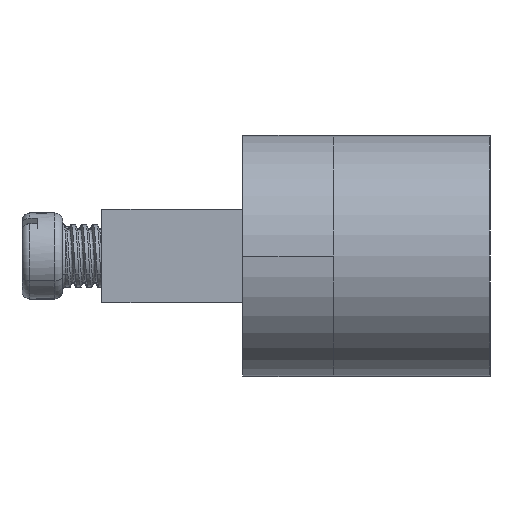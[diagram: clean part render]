
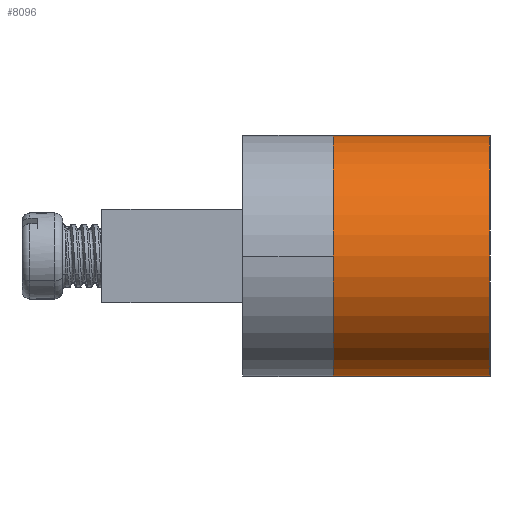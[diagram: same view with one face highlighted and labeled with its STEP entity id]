
A CAD part, left-side view. The second image highlights one B-rep face of the part: STEP entity #8096.
In plain terms, the highlighted cylindrical face has radius 7.7 mm (diameter 15.4 mm), a partial arc.
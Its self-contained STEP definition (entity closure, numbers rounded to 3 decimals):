
#571 = ORIENTED_EDGE ( 'NONE', *, *, #2854, .F. ) ;
#871 = LINE ( 'NONE', #7992, #6985 ) ;
#974 = CARTESIAN_POINT ( 'NONE',  ( 14., -7.7, 10. ) ) ;
#1380 = DIRECTION ( 'NONE',  ( 0., 0., 1. ) ) ;
#1392 = CARTESIAN_POINT ( 'NONE',  ( 14., 7.7, 10. ) ) ;
#1480 = AXIS2_PLACEMENT_3D ( 'NONE', #9798, #5271, #7559 ) ;
#1715 = VERTEX_POINT ( 'NONE', #7892 ) ;
#1738 = CARTESIAN_POINT ( 'NONE',  ( 14., -7.7, 10. ) ) ;
#2316 = FACE_OUTER_BOUND ( 'NONE', #6088, .T. ) ;
#2336 = CARTESIAN_POINT ( 'NONE',  ( 14., 0., 10. ) ) ;
#2480 = VERTEX_POINT ( 'NONE', #1392 ) ;
#2780 = EDGE_CURVE ( 'NONE', #5297, #7339, #5443, .T. ) ;
#2854 = EDGE_CURVE ( 'NONE', #2480, #1715, #871, .T. ) ;
#3126 = DIRECTION ( 'NONE',  ( 1., 0., 0. ) ) ;
#3387 = VECTOR ( 'NONE', #4091, 1000. ) ;
#3419 = DIRECTION ( 'NONE',  ( 0., 0., -1. ) ) ;
#4091 = DIRECTION ( 'NONE',  ( 0., 0., -1. ) ) ;
#5251 = CIRCLE ( 'NONE', #7186, 7.7 ) ;
#5271 = DIRECTION ( 'NONE',  ( 0., 0., -1. ) ) ;
#5297 = VERTEX_POINT ( 'NONE', #1738 ) ;
#5443 = LINE ( 'NONE', #974, #3387 ) ;
#5618 = ORIENTED_EDGE ( 'NONE', *, *, #5750, .F. ) ;
#5750 = EDGE_CURVE ( 'NONE', #5297, #2480, #5251, .T. ) ;
#5987 = CARTESIAN_POINT ( 'NONE',  ( 14., 0., 0. ) ) ;
#6088 = EDGE_LOOP ( 'NONE', ( #9406, #571, #5618, #9838 ) ) ;
#6399 = CIRCLE ( 'NONE', #7706, 7.7 ) ;
#6740 = DIRECTION ( 'NONE',  ( 1., 0., 0. ) ) ;
#6985 = VECTOR ( 'NONE', #3419, 1000. ) ;
#7186 = AXIS2_PLACEMENT_3D ( 'NONE', #2336, #7696, #3126 ) ;
#7339 = VERTEX_POINT ( 'NONE', #8736 ) ;
#7559 = DIRECTION ( 'NONE',  ( -1., 0., 0. ) ) ;
#7696 = DIRECTION ( 'NONE',  ( 0., 0., 1. ) ) ;
#7706 = AXIS2_PLACEMENT_3D ( 'NONE', #5987, #1380, #6740 ) ;
#7892 = CARTESIAN_POINT ( 'NONE',  ( 14., 7.7, 0. ) ) ;
#7992 = CARTESIAN_POINT ( 'NONE',  ( 14., 7.7, 10. ) ) ;
#8096 = ADVANCED_FACE ( 'NONE', ( #2316 ), #8167, .T. ) ;
#8167 = CYLINDRICAL_SURFACE ( 'NONE', #1480, 7.7 ) ;
#8736 = CARTESIAN_POINT ( 'NONE',  ( 14., -7.7, 0. ) ) ;
#9406 = ORIENTED_EDGE ( 'NONE', *, *, #9560, .T. ) ;
#9560 = EDGE_CURVE ( 'NONE', #7339, #1715, #6399, .T. ) ;
#9798 = CARTESIAN_POINT ( 'NONE',  ( 14., 0., 10. ) ) ;
#9838 = ORIENTED_EDGE ( 'NONE', *, *, #2780, .T. ) ;
